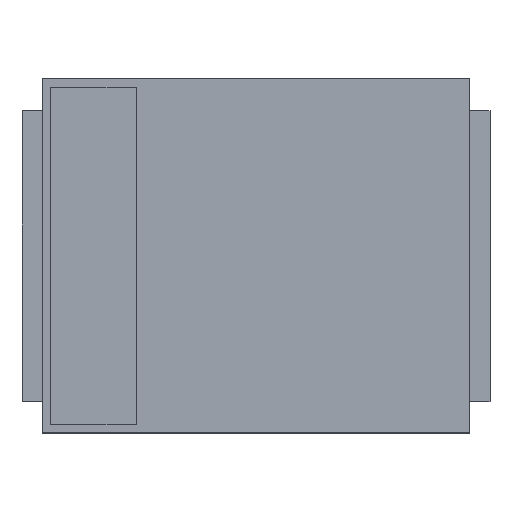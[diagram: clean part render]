
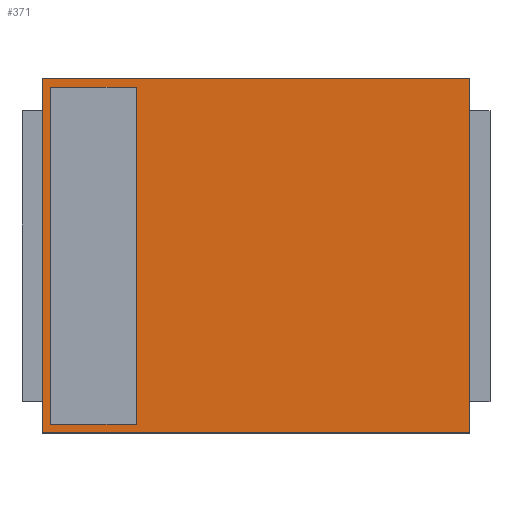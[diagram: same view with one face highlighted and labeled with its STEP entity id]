
A CAD part, top view. The second image highlights one B-rep face of the part: STEP entity #371.
In plain terms, the highlighted planar face has unit normal (0, 0, 1).
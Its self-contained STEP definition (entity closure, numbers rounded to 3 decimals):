
#371=ADVANCED_FACE('',(#377),#372,.T.);
#372=PLANE('',#373);
#373=AXIS2_PLACEMENT_3D('',#374,#375,#376);
#374=CARTESIAN_POINT('',(-1.691,-1.4,2.1));
#375=DIRECTION('',(0.0,0.0,1.0));
#376=DIRECTION('',(0.,1.,0.));
#377=FACE_OUTER_BOUND('',#378,.T.);
#378=EDGE_LOOP('',(#379,#389,#399,#409));
#382=CARTESIAN_POINT('',(1.691,-1.4,2.1));
#381=VERTEX_POINT('',#382);
#384=CARTESIAN_POINT('',(-1.691,-1.4,2.1));
#383=VERTEX_POINT('',#384);
#380=EDGE_CURVE('',#381,#383,#385,.T.);
#385=LINE('',#382,#387);
#387=VECTOR('',#388,3.382);
#388=DIRECTION('',(-1.0,0.0,0.0));
#379=ORIENTED_EDGE('',*,*,#380,.F.);
#392=CARTESIAN_POINT('',(1.691,1.4,2.1));
#391=VERTEX_POINT('',#392);
#390=EDGE_CURVE('',#391,#381,#395,.T.);
#395=LINE('',#392,#397);
#397=VECTOR('',#398,2.8);
#398=DIRECTION('',(0.0,-1.0,0.0));
#389=ORIENTED_EDGE('',*,*,#390,.F.);
#402=CARTESIAN_POINT('',(-1.691,1.4,2.1));
#401=VERTEX_POINT('',#402);
#400=EDGE_CURVE('',#401,#391,#405,.T.);
#405=LINE('',#402,#407);
#407=VECTOR('',#408,3.382);
#408=DIRECTION('',(1.0,0.0,0.0));
#399=ORIENTED_EDGE('',*,*,#400,.F.);
#410=EDGE_CURVE('',#383,#401,#415,.T.);
#415=LINE('',#384,#417);
#417=VECTOR('',#418,2.8);
#418=DIRECTION('',(0.0,1.0,0.0));
#409=ORIENTED_EDGE('',*,*,#410,.F.);
